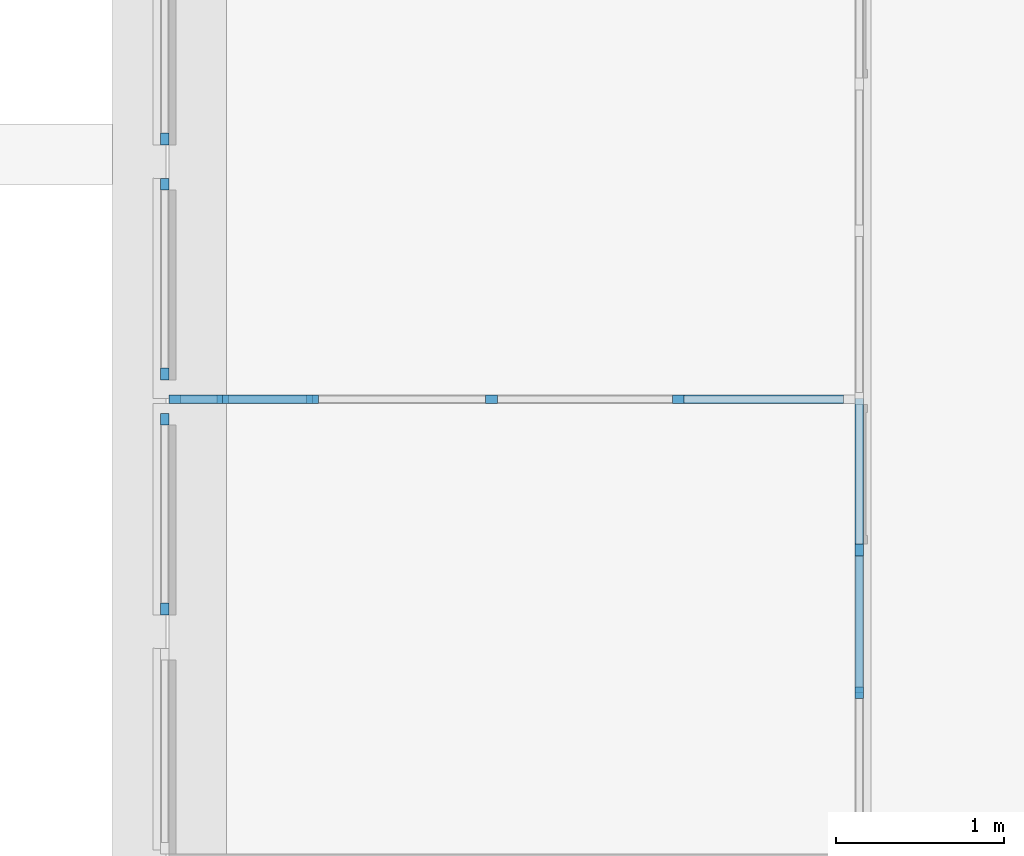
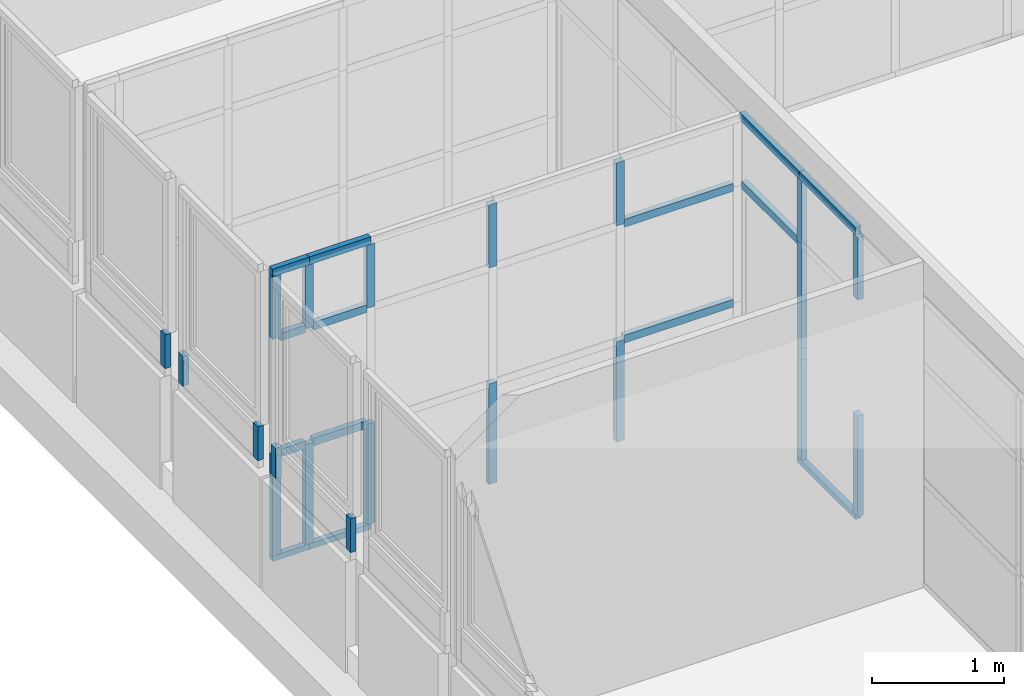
# One storey, part 16 of 97: 35 members, 5 elements without a shape of their own.
"""IFC4 building model written with IfcOpenShell, lengths in metres."""

from ifc_helpers import new_model, entity, si_unit, converted_unit, derived_unit, direction, frame, origin, place, context, subcontext, project, spatial, indexed_curve, outline, extrude, source, transform, mapped, material, type_object, type_shapes, element, aggregate, save


model = new_model("IFC4")

# Units and contexts
model_context = context("Model", 3, precision=1e-05, world=origin(), true_north=direction((6.12303176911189e-17, 1.0)))
body_context = subcontext(model_context, "Body", "Model", "MODEL_VIEW")
ifc_project = project(units=[si_unit("LENGTHUNIT", "METRE"), si_unit("AREAUNIT", "SQUARE_METRE"), si_unit("VOLUMEUNIT", "CUBIC_METRE"), converted_unit("PLANEANGLEUNIT", "DEGREE", entity("IfcRatioMeasure", 0.0174532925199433), si_unit("PLANEANGLEUNIT", "RADIAN"), dimensions=[0, 0, 0, 0, 0, 0, 0]), si_unit("MASSUNIT", "GRAM", prefix="KILO"), derived_unit("MASSDENSITYUNIT", [(si_unit("MASSUNIT", "GRAM", prefix="KILO"), 1), (si_unit("LENGTHUNIT", "METRE"), -3)]), derived_unit("MOMENTOFINERTIAUNIT", [(si_unit("LENGTHUNIT", "METRE"), 4)]), si_unit("TIMEUNIT", "SECOND"), si_unit("FREQUENCYUNIT", "HERTZ"), si_unit("THERMODYNAMICTEMPERATUREUNIT", "DEGREE_CELSIUS"), derived_unit("THERMALTRANSMITTANCEUNIT", [(si_unit("MASSUNIT", "GRAM", prefix="KILO"), 1), (si_unit("THERMODYNAMICTEMPERATUREUNIT", "KELVIN"), -1), (si_unit("TIMEUNIT", "SECOND"), -3)]), derived_unit("VOLUMETRICFLOWRATEUNIT", [(si_unit("LENGTHUNIT", "METRE"), 3), (si_unit("TIMEUNIT", "SECOND"), -1)]), si_unit("ELECTRICCURRENTUNIT", "AMPERE"), si_unit("ELECTRICVOLTAGEUNIT", "VOLT"), si_unit("POWERUNIT", "WATT"), si_unit("FORCEUNIT", "NEWTON", prefix="KILO"), si_unit("ILLUMINANCEUNIT", "LUX"), si_unit("LUMINOUSFLUXUNIT", "LUMEN"), si_unit("LUMINOUSINTENSITYUNIT", "CANDELA"), derived_unit("USERDEFINED", [(si_unit("MASSUNIT", "GRAM", prefix="KILO"), -1), (si_unit("LENGTHUNIT", "METRE"), -2), (si_unit("TIMEUNIT", "SECOND"), 3), (si_unit("LUMINOUSFLUXUNIT", "LUMEN"), 1)]), derived_unit("LINEARVELOCITYUNIT", [(si_unit("LENGTHUNIT", "METRE"), 1), (si_unit("TIMEUNIT", "SECOND"), -1)]), si_unit("PRESSUREUNIT", "PASCAL"), derived_unit("USERDEFINED", [(si_unit("LENGTHUNIT", "METRE"), -2), (si_unit("MASSUNIT", "GRAM", prefix="KILO"), 1), (si_unit("TIMEUNIT", "SECOND"), -2)]), derived_unit("LINEARFORCEUNIT", [(si_unit("MASSUNIT", "GRAM", prefix="KILO"), 1), (si_unit("LENGTHUNIT", "METRE"), 1), (si_unit("TIMEUNIT", "SECOND"), -2), (si_unit("LENGTHUNIT", "METRE"), -1)]), derived_unit("PLANARFORCEUNIT", [(si_unit("MASSUNIT", "GRAM", prefix="KILO"), 1), (si_unit("LENGTHUNIT", "METRE"), 1), (si_unit("TIMEUNIT", "SECOND"), -2), (si_unit("LENGTHUNIT", "METRE"), -2)])], contexts=[model_context])

# Site, building, storey
site_placement = place(None, origin())
site = spatial("IfcSite", under=ifc_project, at=site_placement, Name="Default", CompositionType="ELEMENT")
building_placement = place(site_placement, origin())
building = spatial("IfcBuilding", under=site, at=building_placement, Name="HOTEL CONSULAIRE BOULOGNE SUR MER", CompositionType="ELEMENT")
storey_placement = place(building_placement, frame((0.0, 0.0, 3.62152697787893)))
storey = spatial("IfcBuildingStorey", under=building, at=storey_placement, Name="Niveau 1", CompositionType="ELEMENT", Elevation=3.62152697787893)

# Curtain wall, member
curtain_wall_type = type_object("IfcCurtainWallType", Name="Mur-rideau:Simple panneau", PredefinedType="NOTDEFINED")
curtain_wall_1_placement = place(storey_placement, frame((0.0, 0.0, -3.62152697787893)))
curtain_wall_1 = element("IfcCurtainWall", 1, at=curtain_wall_1_placement, inside=storey, type_object=curtain_wall_type, Name="Mur-rideau:Simple panneau", ObjectType="Mur-rideau:Simple panneau", PredefinedType="NOTDEFINED")
ifc_material_1 = material(Name="PVC - Blanc", Category="Plastique")
member_type_1 = type_object("IfcMemberType", Name="Meneau rectangulaire:50 x 35", PredefinedType="MULLION", material=ifc_material_1)
shared_shape_1 = source(origin(), body_context, "Body", "SweptSolid", [
    extrude(outline(indexed_curve([(-0.025, -0.035), (0.025, -0.035), (0.025, 0.035), (-0.025, 0.035), (-0.025, -0.035)], self_intersect=False)), frame((-0.035, -0.025, -0.278), z_axis=(0.0, 0.0, 1.0), x_axis=(0.0, -1.0, 0.0)), (0.0, 0.0, 1.0), 0.278),
])
type_shapes(member_type_1, [shared_shape_1])
member_1_placement = place(storey_placement, frame((-13.7870998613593, -17.1114499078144, 0.861612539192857), z_axis=(0.0, 0.0, -1.0), x_axis=(0.0, 1.0, 0.0)))
member_1 = element("IfcMember", 2, at=member_1_placement, type_object=member_type_1, material=ifc_material_1, Name="Meneau rectangulaire:50 x 35", ObjectType="Meneau rectangulaire:50 x 35", PredefinedType="MULLION", context=body_context, shape_type="MappedRepresentation", body=[
    mapped(shared_shape_1, transform((0.0, 0.0, 0.0), scale=1.0)),
])

curtain_wall_2_placement = place(storey_placement, frame((0.0, 0.0, -3.62152697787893)))
curtain_wall_2 = element("IfcCurtainWall", 3, at=curtain_wall_2_placement, inside=storey, type_object=curtain_wall_type, Name="Mur-rideau:Simple panneau", ObjectType="Mur-rideau:Simple panneau", PredefinedType="NOTDEFINED")
member_2_placement = place(storey_placement, frame((-13.7870998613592, -15.7114499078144, 0.861612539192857), z_axis=(0.0, 0.0, -1.0), x_axis=(0.0, 1.0, 0.0)))
member_2 = element("IfcMember", 4, at=member_2_placement, type_object=member_type_1, material=ifc_material_1, Name="Meneau rectangulaire:50 x 35", ObjectType="Meneau rectangulaire:50 x 35", PredefinedType="MULLION", context=body_context, shape_type="MappedRepresentation", body=[
    mapped(shared_shape_1, transform((0.0, 0.0, 0.0), scale=1.0)),
])

# Member
member_type_2 = type_object("IfcMemberType", Name="Meneau rectangulaire:50 x 35", PredefinedType="MULLION", material=ifc_material_1)
shared_shape_2 = source(origin(), body_context, "Body", "SweptSolid", [
    extrude(outline(indexed_curve([(-0.025, -0.035), (0.025, -0.035), (0.025, 0.035), (-0.025, 0.035), (-0.025, -0.035)], self_intersect=False)), frame((-0.035, -0.025, -0.313), z_axis=(0.0, 0.0, 1.0), x_axis=(0.0, -1.0, 0.0)), (0.0, 0.0, 1.0), 0.313),
])
type_shapes(member_type_2, [shared_shape_2])
member_3_placement = place(storey_placement, frame((-13.7870998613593, -18.3114499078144, 1.17461253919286), z_axis=(0.0, 0.0, 1.0), x_axis=(0.0, -1.0, 0.0)))
member_3 = element("IfcMember", 5, at=member_3_placement, type_object=member_type_2, material=ifc_material_1, Name="Meneau rectangulaire:50 x 35", ObjectType="Meneau rectangulaire:50 x 35", PredefinedType="MULLION", context=body_context, shape_type="MappedRepresentation", body=[
    mapped(shared_shape_2, transform((0.0, 0.0, 0.0), scale=1.0)),
])

aggregate(curtain_wall_1, [member_1, member_3])

member_4_placement = place(storey_placement, frame((-13.7870998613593, -16.9114499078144, 1.17461253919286), z_axis=(0.0, 0.0, 1.0), x_axis=(0.0, -1.0, 0.0)))
member_4 = element("IfcMember", 6, at=member_4_placement, type_object=member_type_2, material=ifc_material_1, Name="Meneau rectangulaire:50 x 35", ObjectType="Meneau rectangulaire:50 x 35", PredefinedType="MULLION", context=body_context, shape_type="MappedRepresentation", body=[
    mapped(shared_shape_2, transform((0.0, 0.0, 0.0), scale=1.0)),
])

aggregate(curtain_wall_2, [member_2, member_4])

# Curtain wall, member
curtain_wall_3_placement = place(storey_placement, frame((0.0, 0.0, -3.62152697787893)))
curtain_wall_3 = element("IfcCurtainWall", 7, at=curtain_wall_3_placement, inside=storey, type_object=curtain_wall_type, Name="Mur-rideau:Simple panneau", ObjectType="Mur-rideau:Simple panneau", PredefinedType="NOTDEFINED")
member_5_placement = place(storey_placement, frame((-13.7870998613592, -15.5114499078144, 1.17461253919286), z_axis=(0.0, 0.0, 1.0), x_axis=(0.0, -1.0, 0.0)))
member_5 = element("IfcMember", 8, at=member_5_placement, type_object=member_type_2, material=ifc_material_1, Name="Meneau rectangulaire:50 x 35", ObjectType="Meneau rectangulaire:50 x 35", PredefinedType="MULLION", context=body_context, shape_type="MappedRepresentation", body=[
    mapped(shared_shape_2, transform((0.0, 0.0, 0.0), scale=1.0)),
])
aggregate(curtain_wall_3, [member_5])

# Curtain wall, members
curtain_wall_4_placement = place(storey_placement, frame((0.0, 0.0, -3.62152697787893)))
curtain_wall_4 = element("IfcCurtainWall", 9, at=curtain_wall_4_placement, inside=storey, type_object=curtain_wall_type, Name="Mur-rideau:Simple panneau", ObjectType="Mur-rideau:Simple panneau", PredefinedType="NOTDEFINED")
ifc_material_2 = material(Name="PVC, souple", Category="Plastique")
member_type_3 = type_object("IfcMemberType", Name="Meneau rectangulaire:50 x 35 pvc gris", PredefinedType="MULLION", material=ifc_material_2)
shared_shape_3 = source(origin(), body_context, "Body", "SweptSolid", [
    extrude(outline(indexed_curve([(-0.025, -0.035), (0.025, -0.035), (0.025, 0.035), (-0.025, 0.035), (-0.025, -0.035)], self_intersect=False)), frame((0.0, -0.025, -0.581), z_axis=(0.0, 0.0, 1.0), x_axis=(0.0, -1.0, 0.0)), (0.0, 0.0, 1.0), 0.581),
])
type_shapes(member_type_3, [shared_shape_3])
member_6_placement = place(storey_placement, frame((-9.64962464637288, -18.7752596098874, 2.04596046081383), z_axis=(0.0, 0.0, -1.0), x_axis=(0.0, 1.0, 0.0)))
member_6 = element("IfcMember", 10, at=member_6_placement, type_object=member_type_3, material=ifc_material_2, Name="Meneau rectangulaire:50 x 35 pvc gris", ObjectType="Meneau rectangulaire:50 x 35 pvc gris", PredefinedType="MULLION", context=body_context, shape_type="MappedRepresentation", body=[
    mapped(shared_shape_3, transform((0.0, 0.0, 0.0), scale=1.0)),
])
member_7_placement = place(storey_placement, frame((-9.64962464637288, -17.9252596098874, 2.04596046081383), z_axis=(0.0, 0.0, -1.0), x_axis=(0.0, 1.0, 0.0)))
member_7 = element("IfcMember", 11, at=member_7_placement, type_object=member_type_3, material=ifc_material_2, Name="Meneau rectangulaire:50 x 35 pvc gris", ObjectType="Meneau rectangulaire:50 x 35 pvc gris", PredefinedType="MULLION", context=body_context, shape_type="MappedRepresentation", body=[
    mapped(shared_shape_3, transform((0.0, 0.0, 0.0), scale=1.0)),
])

curtain_wall_5_placement = place(storey_placement, frame((0.0, 0.0, -3.62152697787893)))
curtain_wall_5 = element("IfcCurtainWall", 12, at=curtain_wall_5_placement, inside=storey, type_object=curtain_wall_type, Name="Mur-rideau:Simple panneau", ObjectType="Mur-rideau:Simple panneau", PredefinedType="NOTDEFINED")
member_8_placement = place(storey_placement, frame((-10.7536246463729, -17.0018458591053, 2.04596046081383), z_axis=(0.0, 0.0, -1.0), x_axis=(-1.0, 0.0, 0.0)))
member_8 = element("IfcMember", 13, at=member_8_placement, type_object=member_type_3, material=ifc_material_2, Name="Meneau rectangulaire:50 x 35 pvc gris", ObjectType="Meneau rectangulaire:50 x 35 pvc gris", PredefinedType="MULLION", context=body_context, shape_type="MappedRepresentation", body=[
    mapped(shared_shape_3, transform((0.0, 0.0, 0.0), scale=1.0)),
])
member_9_placement = place(storey_placement, frame((-11.8656246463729, -17.0018458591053, 2.04596046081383), z_axis=(0.0, 0.0, -1.0), x_axis=(-1.0, 0.0, 0.0)))
member_9 = element("IfcMember", 14, at=member_9_placement, type_object=member_type_3, material=ifc_material_2, Name="Meneau rectangulaire:50 x 35 pvc gris", ObjectType="Meneau rectangulaire:50 x 35 pvc gris", PredefinedType="MULLION", context=body_context, shape_type="MappedRepresentation", body=[
    mapped(shared_shape_3, transform((0.0, 0.0, 0.0), scale=1.0)),
])
member_10_placement = place(storey_placement, frame((-12.9321025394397, -17.0018458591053, 2.04596046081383), z_axis=(0.0, 0.0, -1.0), x_axis=(-1.0, 0.0, 0.0)))
member_10 = element("IfcMember", 15, at=member_10_placement, type_object=member_type_3, material=ifc_material_2, Name="Meneau rectangulaire:50 x 35 pvc gris", ObjectType="Meneau rectangulaire:50 x 35 pvc gris", PredefinedType="MULLION", context=body_context, shape_type="MappedRepresentation", body=[
    mapped(shared_shape_3, transform((0.0, 0.0, 0.0), scale=1.0)),
])
member_11_placement = place(storey_placement, frame((-13.4671025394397, -17.0018458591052, 2.04596046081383), z_axis=(0.0, 0.0, -1.0), x_axis=(-1.0, 0.0, 0.0)))
member_11 = element("IfcMember", 16, at=member_11_placement, type_object=member_type_3, material=ifc_material_2, Name="Meneau rectangulaire:50 x 35 pvc gris", ObjectType="Meneau rectangulaire:50 x 35 pvc gris", PredefinedType="MULLION", context=body_context, shape_type="MappedRepresentation", body=[
    mapped(shared_shape_3, transform((0.0, 0.0, 0.0), scale=1.0)),
])

# Member
member_type_4 = type_object("IfcMemberType", Name="Meneau rectangulaire:50 x 35 pvc gris", PredefinedType="MULLION", material=ifc_material_2)
shared_shape_4 = source(origin(), body_context, "Body", "SweptSolid", [
    extrude(outline(indexed_curve([(-0.025, -0.035), (0.025, -0.035), (0.025, 0.035), (-0.025, 0.035), (-0.025, -0.035)], self_intersect=False)), frame((0.0, -0.025, -0.926960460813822), z_axis=(0.0, 0.0, 1.0), x_axis=(0.0, -1.0, 0.0)), (0.0, 0.0, 1.0), 0.926960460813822),
])
type_shapes(member_type_4, [shared_shape_4])
member_12_placement = place(storey_placement, frame((-9.64962464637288, -18.7752596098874, 0.050000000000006), z_axis=(0.0, 0.0, -1.0), x_axis=(0.0, 1.0, 0.0)))
member_12 = element("IfcMember", 17, at=member_12_placement, type_object=member_type_4, material=ifc_material_2, Name="Meneau rectangulaire:50 x 35 pvc gris", ObjectType="Meneau rectangulaire:50 x 35 pvc gris", PredefinedType="MULLION", context=body_context, shape_type="MappedRepresentation", body=[
    mapped(shared_shape_4, transform((0.0, 0.0, 0.0), scale=1.0)),
])

member_13_placement = place(storey_placement, frame((-9.64962464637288, -17.9252596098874, 0.050000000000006), z_axis=(0.0, 0.0, -1.0), x_axis=(0.0, 1.0, 0.0)))
member_13 = element("IfcMember", 18, at=member_13_placement, type_object=member_type_4, material=ifc_material_2, Name="Meneau rectangulaire:50 x 35 pvc gris", ObjectType="Meneau rectangulaire:50 x 35 pvc gris", PredefinedType="MULLION", context=body_context, shape_type="MappedRepresentation", body=[
    mapped(shared_shape_4, transform((0.0, 0.0, 0.0), scale=1.0)),
])

member_14_placement = place(storey_placement, frame((-10.7536246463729, -17.0018458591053, 0.050000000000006), z_axis=(0.0, 0.0, -1.0), x_axis=(-1.0, 0.0, 0.0)))
member_14 = element("IfcMember", 19, at=member_14_placement, type_object=member_type_4, material=ifc_material_2, Name="Meneau rectangulaire:50 x 35 pvc gris", ObjectType="Meneau rectangulaire:50 x 35 pvc gris", PredefinedType="MULLION", context=body_context, shape_type="MappedRepresentation", body=[
    mapped(shared_shape_4, transform((0.0, 0.0, 0.0), scale=1.0)),
])

member_15_placement = place(storey_placement, frame((-11.8656246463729, -17.0018458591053, 0.050000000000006), z_axis=(0.0, 0.0, -1.0), x_axis=(-1.0, 0.0, 0.0)))
member_15 = element("IfcMember", 20, at=member_15_placement, type_object=member_type_4, material=ifc_material_2, Name="Meneau rectangulaire:50 x 35 pvc gris", ObjectType="Meneau rectangulaire:50 x 35 pvc gris", PredefinedType="MULLION", context=body_context, shape_type="MappedRepresentation", body=[
    mapped(shared_shape_4, transform((0.0, 0.0, 0.0), scale=1.0)),
])

member_16_placement = place(storey_placement, frame((-12.9321025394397, -17.0018458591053, 0.050000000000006), z_axis=(0.0, 0.0, -1.0), x_axis=(-1.0, 0.0, 0.0)))
member_16 = element("IfcMember", 21, at=member_16_placement, type_object=member_type_4, material=ifc_material_2, Name="Meneau rectangulaire:50 x 35 pvc gris", ObjectType="Meneau rectangulaire:50 x 35 pvc gris", PredefinedType="MULLION", context=body_context, shape_type="MappedRepresentation", body=[
    mapped(shared_shape_4, transform((0.0, 0.0, 0.0), scale=1.0)),
])

member_17_placement = place(storey_placement, frame((-13.4671025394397, -17.0018458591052, 0.050000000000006), z_axis=(0.0, 0.0, -1.0), x_axis=(-1.0, 0.0, 0.0)))
member_17 = element("IfcMember", 22, at=member_17_placement, type_object=member_type_4, material=ifc_material_2, Name="Meneau rectangulaire:50 x 35 pvc gris", ObjectType="Meneau rectangulaire:50 x 35 pvc gris", PredefinedType="MULLION", context=body_context, shape_type="MappedRepresentation", body=[
    mapped(shared_shape_4, transform((0.0, 0.0, 0.0), scale=1.0)),
])

member_type_5 = type_object("IfcMemberType", Name="Meneau rectangulaire:50 x 35 pvc gris", PredefinedType="MULLION", material=ifc_material_2)
shared_shape_5 = source(origin(), body_context, "Body", "SweptSolid", [
    extrude(outline(indexed_curve([(-0.025, -0.035), (0.025, -0.035), (0.025, 0.035), (-0.025, 0.035), (-0.025, -0.035)], self_intersect=False)), frame((0.0, -0.025, -0.833), z_axis=(0.0, 0.0, 1.0), x_axis=(0.0, -1.0, 0.0)), (0.0, 0.0, 1.0), 0.833000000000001),
])
type_shapes(member_type_5, [shared_shape_5])
member_18_placement = place(storey_placement, frame((-9.64962464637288, -17.0572596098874, 2.04596046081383), z_axis=(0.0, 1.0, 0.0), x_axis=(0.0, 0.0, 1.0)))
member_18 = element("IfcMember", 23, at=member_18_placement, type_object=member_type_5, material=ifc_material_2, Name="Meneau rectangulaire:50 x 35 pvc gris", ObjectType="Meneau rectangulaire:50 x 35 pvc gris", PredefinedType="MULLION", context=body_context, shape_type="MappedRepresentation", body=[
    mapped(shared_shape_5, transform((0.0, 0.0, 0.0), scale=1.0)),
])

member_type_6 = type_object("IfcMemberType", Name="Meneau rectangulaire:50 x 35 pvc gris", PredefinedType="MULLION", material=ifc_material_2)
shared_shape_6 = source(origin(), body_context, "Body", "SweptSolid", [
    extrude(outline(indexed_curve([(-0.025, -0.035), (0.025, -0.035), (0.025, 0.035), (-0.025, 0.035), (-0.025, -0.035)], self_intersect=False)), frame((0.0, -0.025, -0.105), z_axis=(0.0, 0.0, 1.0), x_axis=(0.0, -1.0, 0.0)), (0.0, 0.0, 1.0), 0.105),
])
type_shapes(member_type_6, [shared_shape_6])
member_19_placement = place(storey_placement, frame((-9.64962464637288, -17.9252596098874, 0.976960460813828), z_axis=(0.0, 0.0, -1.0), x_axis=(0.0, 1.0, 0.0)))
member_19 = element("IfcMember", 24, at=member_19_placement, type_object=member_type_6, material=ifc_material_2, Name="Meneau rectangulaire:50 x 35 pvc gris", ObjectType="Meneau rectangulaire:50 x 35 pvc gris", PredefinedType="MULLION", context=body_context, shape_type="MappedRepresentation", body=[
    mapped(shared_shape_6, transform((0.0, 0.0, 0.0), scale=1.0)),
])

member_type_7 = type_object("IfcMemberType", Name="Meneau rectangulaire:50 x 35 pvc gris", PredefinedType="MULLION", material=ifc_material_2)
shared_shape_7 = source(origin(), body_context, "Body", "SweptSolid", [
    extrude(outline(indexed_curve([(-0.025, -0.035), (0.025, -0.035), (0.025, 0.035), (-0.025, 0.035), (-0.025, -0.035)], self_intersect=False)), frame((0.0, -0.025, -0.964), z_axis=(0.0, 0.0, 1.0), x_axis=(0.0, -1.0, 0.0)), (0.0, 0.0, 1.0), 0.964),
])
type_shapes(member_type_7, [shared_shape_7])
member_20_placement = place(storey_placement, frame((-9.64962464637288, -17.9252596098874, 1.08196046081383), z_axis=(0.0, 0.0, -1.0), x_axis=(0.0, 1.0, 0.0)))
member_20 = element("IfcMember", 25, at=member_20_placement, type_object=member_type_7, material=ifc_material_2, Name="Meneau rectangulaire:50 x 35 pvc gris", ObjectType="Meneau rectangulaire:50 x 35 pvc gris", PredefinedType="MULLION", context=body_context, shape_type="MappedRepresentation", body=[
    mapped(shared_shape_7, transform((0.0, 0.0, 0.0), scale=1.0)),
])

member_type_8 = type_object("IfcMemberType", Name="Meneau rectangulaire:50 x 35 pvc gris", PredefinedType="MULLION", material=ifc_material_2)
shared_shape_8 = source(origin(), body_context, "Body", "SweptSolid", [
    extrude(outline(indexed_curve([(-0.025, -0.035), (0.025, -0.035), (0.025, 0.035), (-0.025, 0.035), (-0.025, -0.035)], self_intersect=False)), frame((-0.035, -0.025, -0.581), z_axis=(0.0, 0.0, 1.0), x_axis=(0.0, -1.0, 0.0)), (0.0, 0.0, 1.0), 0.581),
])
type_shapes(member_type_8, [shared_shape_8])
member_21_placement = place(storey_placement, frame((-13.7881025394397, -17.0018458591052, 2.04596046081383), z_axis=(0.0, 0.0, -1.0), x_axis=(-1.0, 0.0, 0.0)))
member_21 = element("IfcMember", 26, at=member_21_placement, type_object=member_type_8, material=ifc_material_2, Name="Meneau rectangulaire:50 x 35 pvc gris", ObjectType="Meneau rectangulaire:50 x 35 pvc gris", PredefinedType="MULLION", context=body_context, shape_type="MappedRepresentation", body=[
    mapped(shared_shape_8, transform((0.0, 0.0, 0.0), scale=1.0)),
])

member_type_9 = type_object("IfcMemberType", Name="Meneau rectangulaire:50 x 35 pvc gris", PredefinedType="MULLION", material=ifc_material_2)
shared_shape_9 = source(origin(), body_context, "Body", "SweptSolid", [
    extrude(outline(indexed_curve([(-0.025, -0.035), (0.025, -0.035), (0.025, 0.035), (-0.025, 0.035), (-0.025, -0.035)], self_intersect=False)), frame((-0.035, -0.025, -0.926960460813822), z_axis=(0.0, 0.0, 1.0), x_axis=(0.0, -1.0, 0.0)), (0.0, 0.0, 1.0), 0.926960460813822),
])
type_shapes(member_type_9, [shared_shape_9])
member_22_placement = place(storey_placement, frame((-13.7881025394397, -17.0018458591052, 0.050000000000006), z_axis=(0.0, 0.0, -1.0), x_axis=(-1.0, 0.0, 0.0)))
member_22 = element("IfcMember", 27, at=member_22_placement, type_object=member_type_9, material=ifc_material_2, Name="Meneau rectangulaire:50 x 35 pvc gris", ObjectType="Meneau rectangulaire:50 x 35 pvc gris", PredefinedType="MULLION", context=body_context, shape_type="MappedRepresentation", body=[
    mapped(shared_shape_9, transform((0.0, 0.0, 0.0), scale=1.0)),
])

member_type_10 = type_object("IfcMemberType", Name="Meneau rectangulaire:50 x 35 pvc gris", PredefinedType="MULLION", material=ifc_material_2)
shared_shape_10 = source(origin(), body_context, "Body", "SweptSolid", [
    extrude(outline(indexed_curve([(-0.025, -0.035), (0.025, -0.035), (0.025, 0.035), (-0.025, 0.035), (-0.025, -0.035)], self_intersect=False)), frame((-0.035, -0.025, -0.903), z_axis=(0.0, 0.0, 1.0), x_axis=(0.0, -1.0, 0.0)), (0.0, 0.0, 1.0), 0.903),
])
type_shapes(member_type_10, [shared_shape_10])
member_23_placement = place(storey_placement, frame((-9.64962464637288, -17.0222596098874, 2.69696046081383), z_axis=(0.0, 1.0, 0.0), x_axis=(0.0, 0.0, 1.0)))
member_23 = element("IfcMember", 28, at=member_23_placement, type_object=member_type_10, material=ifc_material_2, Name="Meneau rectangulaire:50 x 35 pvc gris", ObjectType="Meneau rectangulaire:50 x 35 pvc gris", PredefinedType="MULLION", context=body_context, shape_type="MappedRepresentation", body=[
    mapped(shared_shape_10, transform((0.0, 0.0, 0.0), scale=1.0)),
])

member_type_11 = type_object("IfcMemberType", Name="Meneau rectangulaire:50 x 35 pvc gris", PredefinedType="MULLION", material=ifc_material_2)
shared_shape_11 = source(origin(), body_context, "Body", "SweptSolid", [
    extrude(outline(indexed_curve([(-0.025, -0.035), (0.025, -0.035), (0.025, 0.035), (-0.025, 0.035), (-0.025, -0.035)], self_intersect=False)), frame((-0.035, -0.025, -0.85), z_axis=(0.0, 0.0, 1.0), x_axis=(0.0, -1.0, 0.0)), (0.0, 0.0, 1.0), 0.85),
])
type_shapes(member_type_11, [shared_shape_11])
member_24_placement = place(storey_placement, frame((-9.64962464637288, -17.9252596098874, 2.69696046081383), z_axis=(0.0, 1.0, 0.0), x_axis=(0.0, 0.0, 1.0)))
member_24 = element("IfcMember", 29, at=member_24_placement, type_object=member_type_11, material=ifc_material_2, Name="Meneau rectangulaire:50 x 35 pvc gris", ObjectType="Meneau rectangulaire:50 x 35 pvc gris", PredefinedType="MULLION", context=body_context, shape_type="MappedRepresentation", body=[
    mapped(shared_shape_11, transform((0.0, 0.0, 0.0), scale=1.0)),
])

member_type_12 = type_object("IfcMemberType", Name="Meneau rectangulaire:50 x 25mm pvc gris", PredefinedType="MULLION", material=ifc_material_2)
shared_shape_12 = source(origin(), body_context, "Body", "SweptSolid", [
    extrude(outline(indexed_curve([(-0.025, -0.025), (0.025, -0.025), (0.025, 0.025), (-0.025, 0.025), (-0.025, -0.025)], self_intersect=False)), frame((-0.025, -0.025, -0.885), z_axis=(0.0, 0.0, 1.0), x_axis=(0.0, -1.0, 0.0)), (0.0, 0.0, 1.0), 0.885),
])
type_shapes(member_type_12, [shared_shape_12])
member_25_placement = place(storey_placement, frame((-9.64962464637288, -18.7752596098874, 0.0), z_axis=(0.0, -1.0, 0.0), x_axis=(0.0, 0.0, -1.0)))
member_25 = element("IfcMember", 30, at=member_25_placement, type_object=member_type_12, material=ifc_material_2, Name="Meneau rectangulaire:50 x 25mm pvc gris", ObjectType="Meneau rectangulaire:50 x 25mm pvc gris", PredefinedType="MULLION", context=body_context, shape_type="MappedRepresentation", body=[
    mapped(shared_shape_12, transform((0.0, 0.0, 0.0), scale=1.0)),
])

aggregate(curtain_wall_4, [member_18, member_6, member_12, member_19, member_20, member_7, member_13, member_23, member_24, member_25])

member_type_13 = type_object("IfcMemberType", Name="Meneau rectangulaire:50 x 35 pvc gris", PredefinedType="MULLION", material=ifc_material_2)
shared_shape_13 = source(origin(), body_context, "Body", "SweptSolid", [
    extrude(outline(indexed_curve([(-0.025, -0.035), (0.025, -0.035), (0.025, 0.035), (-0.025, 0.035), (-0.025, -0.035)], self_intersect=False)), frame((-0.035, -0.025, -0.535), z_axis=(0.0, 0.0, 1.0), x_axis=(0.0, -1.0, 0.0)), (0.0, 0.0, 1.0), 0.535),
])
type_shapes(member_type_13, [shared_shape_13])
member_26_placement = place(storey_placement, frame((-13.4671025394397, -17.0018458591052, 2.69696046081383), z_axis=(-1.0, 0.0, 0.0), x_axis=(0.0, 0.0, 1.0)))
member_26 = element("IfcMember", 31, at=member_26_placement, type_object=member_type_13, material=ifc_material_2, Name="Meneau rectangulaire:50 x 35 pvc gris", ObjectType="Meneau rectangulaire:50 x 35 pvc gris", PredefinedType="MULLION", context=body_context, shape_type="MappedRepresentation", body=[
    mapped(shared_shape_13, transform((0.0, 0.0, 0.0), scale=1.0)),
])

member_type_14 = type_object("IfcMemberType", Name="Meneau rectangulaire:50 x 35 pvc gris", PredefinedType="MULLION", material=ifc_material_2)
shared_shape_14 = source(origin(), body_context, "Body", "SweptSolid", [
    extrude(outline(indexed_curve([(-0.025, -0.035), (0.025, -0.035), (0.025, 0.035), (-0.025, 0.035), (-0.025, -0.035)], self_intersect=False)), frame((-0.035, -0.025, -0.321000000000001), z_axis=(0.0, 0.0, 1.0), x_axis=(0.0, -1.0, 0.0)), (0.0, 0.0, 1.0), 0.321000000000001),
])
type_shapes(member_type_14, [shared_shape_14])
member_27_placement = place(storey_placement, frame((-13.7881025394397, -17.0018458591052, 2.69696046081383), z_axis=(-1.0, 0.0, 0.0), x_axis=(0.0, 0.0, 1.0)))
member_27 = element("IfcMember", 32, at=member_27_placement, type_object=member_type_14, material=ifc_material_2, Name="Meneau rectangulaire:50 x 35 pvc gris", ObjectType="Meneau rectangulaire:50 x 35 pvc gris", PredefinedType="MULLION", context=body_context, shape_type="MappedRepresentation", body=[
    mapped(shared_shape_14, transform((0.0, 0.0, 0.0), scale=1.0)),
])

member_type_15 = type_object("IfcMemberType", Name="Meneau rectangulaire:50 x 35 pvc gris", PredefinedType="MULLION", material=ifc_material_2)
shared_shape_15 = source(origin(), body_context, "Body", "SweptSolid", [
    extrude(outline(indexed_curve([(-0.025, -0.035), (0.025, -0.035), (0.025, 0.035), (-0.025, 0.035), (-0.025, -0.035)], self_intersect=False)), frame((0.0, -0.025, -0.216000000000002), z_axis=(0.0, 0.0, 1.0), x_axis=(0.0, -1.0, 0.0)), (0.0, 0.0, 1.0), 0.216000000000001),
])
type_shapes(member_type_15, [shared_shape_15])
member_28_placement = place(storey_placement, frame((-13.7181025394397, -17.0018458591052, 2.04596046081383), z_axis=(-1.0, 0.0, 0.0), x_axis=(0.0, 0.0, 1.0)))
member_28 = element("IfcMember", 33, at=member_28_placement, type_object=member_type_15, material=ifc_material_2, Name="Meneau rectangulaire:50 x 35 pvc gris", ObjectType="Meneau rectangulaire:50 x 35 pvc gris", PredefinedType="MULLION", context=body_context, shape_type="MappedRepresentation", body=[
    mapped(shared_shape_15, transform((0.0, 0.0, 0.0), scale=1.0)),
])

member_29_placement = place(storey_placement, frame((-13.7181025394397, -17.0018458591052, 0.977000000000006), z_axis=(-1.0, 0.0, 0.0), x_axis=(0.0, 0.0, 1.0)))
member_29 = element("IfcMember", 34, at=member_29_placement, type_object=member_type_15, material=ifc_material_2, Name="Meneau rectangulaire:50 x 35 pvc gris", ObjectType="Meneau rectangulaire:50 x 35 pvc gris", PredefinedType="MULLION", context=body_context, shape_type="MappedRepresentation", body=[
    mapped(shared_shape_15, transform((0.0, 0.0, 0.0), scale=1.0)),
])

member_type_16 = type_object("IfcMemberType", Name="Meneau rectangulaire:50 x 35 pvc gris", PredefinedType="MULLION", material=ifc_material_2)
shared_shape_16 = source(origin(), body_context, "Body", "SweptSolid", [
    extrude(outline(indexed_curve([(-0.025, -0.035), (0.025, -0.035), (0.025, 0.035), (-0.025, 0.035), (-0.025, -0.035)], self_intersect=False)), frame((0.0, -0.025, -0.464999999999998), z_axis=(0.0, 0.0, 1.0), x_axis=(0.0, -1.0, 0.0)), (0.0, 0.0, 1.0), 0.464999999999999),
])
type_shapes(member_type_16, [shared_shape_16])
member_30_placement = place(storey_placement, frame((-13.4321025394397, -17.0018458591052, 2.04596046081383), z_axis=(-1.0, 0.0, 0.0), x_axis=(0.0, 0.0, 1.0)))
member_30 = element("IfcMember", 35, at=member_30_placement, type_object=member_type_16, material=ifc_material_2, Name="Meneau rectangulaire:50 x 35 pvc gris", ObjectType="Meneau rectangulaire:50 x 35 pvc gris", PredefinedType="MULLION", context=body_context, shape_type="MappedRepresentation", body=[
    mapped(shared_shape_16, transform((0.0, 0.0, 0.0), scale=1.0)),
])

member_31_placement = place(storey_placement, frame((-13.4321025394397, -17.0018458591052, 0.977000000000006), z_axis=(-1.0, 0.0, 0.0), x_axis=(0.0, 0.0, 1.0)))
member_31 = element("IfcMember", 36, at=member_31_placement, type_object=member_type_16, material=ifc_material_2, Name="Meneau rectangulaire:50 x 35 pvc gris", ObjectType="Meneau rectangulaire:50 x 35 pvc gris", PredefinedType="MULLION", context=body_context, shape_type="MappedRepresentation", body=[
    mapped(shared_shape_16, transform((0.0, 0.0, 0.0), scale=1.0)),
])

member_type_17 = type_object("IfcMemberType", Name="Meneau rectangulaire:50 x 35 pvc gris", PredefinedType="MULLION", material=ifc_material_2)
shared_shape_17 = source(origin(), body_context, "Body", "SweptSolid", [
    extrude(outline(indexed_curve([(-0.025, -0.035), (0.025, -0.035), (0.025, 0.035), (-0.025, 0.035), (-0.025, -0.035)], self_intersect=False)), frame((0.0, -0.025, -0.949), z_axis=(0.0, 0.0, 1.0), x_axis=(0.0, -1.0, 0.0)), (0.0, 0.0, 1.0), 0.949),
])
type_shapes(member_type_17, [shared_shape_17])
member_32_placement = place(storey_placement, frame((-10.7186246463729, -17.0018458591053, 2.04596046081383), z_axis=(-1.0, 0.0, 0.0), x_axis=(0.0, 0.0, 1.0)))
member_32 = element("IfcMember", 37, at=member_32_placement, type_object=member_type_17, material=ifc_material_2, Name="Meneau rectangulaire:50 x 35 pvc gris", ObjectType="Meneau rectangulaire:50 x 35 pvc gris", PredefinedType="MULLION", context=body_context, shape_type="MappedRepresentation", body=[
    mapped(shared_shape_17, transform((0.0, 0.0, 0.0), scale=1.0)),
])

member_33_placement = place(storey_placement, frame((-10.7186246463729, -17.0018458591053, 0.977000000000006), z_axis=(-1.0, 0.0, 0.0), x_axis=(0.0, 0.0, 1.0)))
member_33 = element("IfcMember", 38, at=member_33_placement, type_object=member_type_17, material=ifc_material_2, Name="Meneau rectangulaire:50 x 35 pvc gris", ObjectType="Meneau rectangulaire:50 x 35 pvc gris", PredefinedType="MULLION", context=body_context, shape_type="MappedRepresentation", body=[
    mapped(shared_shape_17, transform((0.0, 0.0, 0.0), scale=1.0)),
])

member_type_18 = type_object("IfcMemberType", Name="Meneau rectangulaire:50 x 25mm pvc gris", PredefinedType="MULLION", material=ifc_material_2)
shared_shape_18 = source(origin(), body_context, "Body", "SweptSolid", [
    extrude(outline(indexed_curve([(-0.025, -0.025), (0.025, -0.025), (0.025, 0.025), (-0.025, 0.025), (-0.025, -0.025)], self_intersect=False)), frame((-0.025, -0.025, -0.321000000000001), z_axis=(0.0, 0.0, 1.0), x_axis=(0.0, -1.0, 0.0)), (0.0, 0.0, 1.0), 0.321000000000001),
])
type_shapes(member_type_18, [shared_shape_18])
member_34_placement = place(storey_placement, frame((-13.4671025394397, -17.0018458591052, 0.0), z_axis=(1.0, 0.0, 0.0), x_axis=(0.0, 0.0, -1.0)))
member_34 = element("IfcMember", 39, at=member_34_placement, type_object=member_type_18, material=ifc_material_2, Name="Meneau rectangulaire:50 x 25mm pvc gris", ObjectType="Meneau rectangulaire:50 x 25mm pvc gris", PredefinedType="MULLION", context=body_context, shape_type="MappedRepresentation", body=[
    mapped(shared_shape_18, transform((0.0, 0.0, 0.0), scale=1.0)),
])

member_type_19 = type_object("IfcMemberType", Name="Meneau rectangulaire:50 x 25mm pvc gris", PredefinedType="MULLION", material=ifc_material_2)
shared_shape_19 = source(origin(), body_context, "Body", "SweptSolid", [
    extrude(outline(indexed_curve([(-0.025, -0.025), (0.025, -0.025), (0.025, 0.025), (-0.025, 0.025), (-0.025, -0.025)], self_intersect=False)), frame((-0.025, -0.025, -0.535), z_axis=(0.0, 0.0, 1.0), x_axis=(0.0, -1.0, 0.0)), (0.0, 0.0, 1.0), 0.535),
])
type_shapes(member_type_19, [shared_shape_19])
member_35_placement = place(storey_placement, frame((-12.9321025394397, -17.0018458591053, 0.0), z_axis=(1.0, 0.0, 0.0), x_axis=(0.0, 0.0, -1.0)))
member_35 = element("IfcMember", 40, at=member_35_placement, type_object=member_type_19, material=ifc_material_2, Name="Meneau rectangulaire:50 x 25mm pvc gris", ObjectType="Meneau rectangulaire:50 x 25mm pvc gris", PredefinedType="MULLION", context=body_context, shape_type="MappedRepresentation", body=[
    mapped(shared_shape_19, transform((0.0, 0.0, 0.0), scale=1.0)),
])

aggregate(curtain_wall_5, [member_26, member_27, member_28, member_30, member_32, member_29, member_31, member_33, member_8, member_14, member_9, member_15, member_10, member_16, member_11, member_17, member_21, member_22, member_34, member_35])

save(model, "model.ifc")
